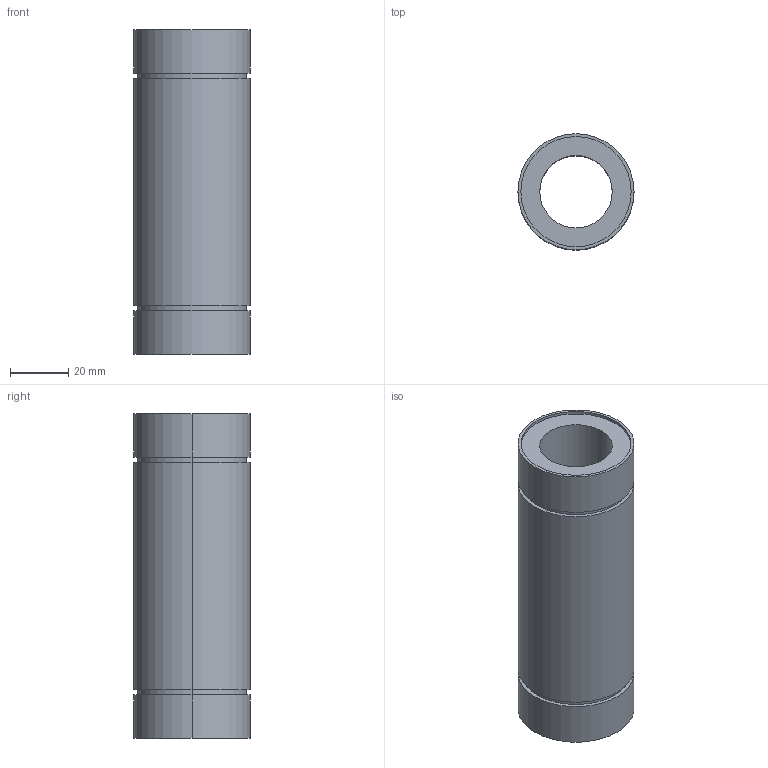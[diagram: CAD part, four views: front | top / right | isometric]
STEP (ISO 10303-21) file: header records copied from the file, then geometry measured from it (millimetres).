
FILE_DESCRIPTION((''),'2;1');
FILE_NAME('C:\Documents and Settings\ｿﾀﾀ蠑ｷ1\ｹﾙﾅﾁ ﾈｭｸ饅\ｺﾎﾇｰﾆﾄﾀﾏ\ﾁｦﾇｰ\LME__LUU\LME25LUU.stp','2005-06-14T18:37:47',('ｿﾀﾀ蠑ｷ1'),(''),'Autodesk Inventor 9','Autodesk Inventor 9','');
FILE_SCHEMA(('AUTOMOTIVE_DESIGN { 1 0 10303 214 1 1 1 1 }'));
Length unit declared in the file: millimetre
Products named in the file (1): LME__
Bounding box: 40 x 40 x 112 mm (x, y, z)
Volume: 83916 mm3; surface area: 25063.6 mm2
Topology: 1 solids, 1 shells, 24 faces, 48 edges, 32 vertices
Faces by surface type: cylinder 16, plane 8
Entity records: 671 total; most frequent: DIRECTION 130, CARTESIAN_POINT 105, ORIENTED_EDGE 96, AXIS2_PLACEMENT_3D 57, EDGE_CURVE 48, VERTEX_POINT 32, CIRCLE 32, EDGE_LOOP 32
